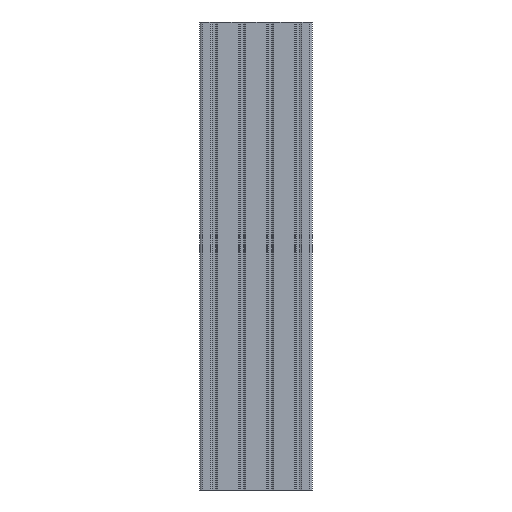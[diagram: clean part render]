
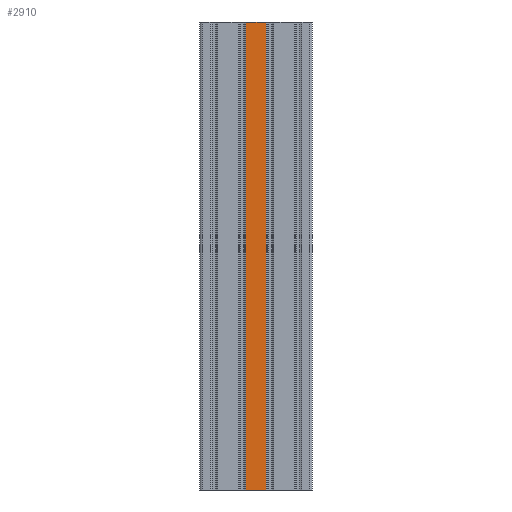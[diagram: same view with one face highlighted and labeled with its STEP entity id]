
A CAD part, front view. The second image highlights one B-rep face of the part: STEP entity #2910.
In plain terms, the highlighted planar face has unit normal (0, -1, 0).
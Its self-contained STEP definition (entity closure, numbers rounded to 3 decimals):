
#121 = CARTESIAN_POINT ( 'NONE',  ( -60., -30., 250. ) ) ;
#467 = VECTOR ( 'NONE', #9434, 1000. ) ;
#710 = EDGE_CURVE ( 'NONE', #2689, #10120, #6341, .T. ) ;
#1339 = DIRECTION ( 'NONE',  ( 0., -1., 0. ) ) ;
#1698 = LINE ( 'NONE', #9549, #467 ) ;
#1984 = FACE_OUTER_BOUND ( 'NONE', #7956, .T. ) ;
#2216 = ORIENTED_EDGE ( 'NONE', *, *, #3557, .F. ) ;
#2266 = VERTEX_POINT ( 'NONE', #9109 ) ;
#2605 = DIRECTION ( 'NONE',  ( 0., 0., 1. ) ) ;
#2609 = EDGE_CURVE ( 'NONE', #3277, #2266, #3489, .T. ) ;
#2684 = EDGE_CURVE ( 'NONE', #2266, #10120, #5310, .T. ) ;
#2689 = VERTEX_POINT ( 'NONE', #6249 ) ;
#2910 = ADVANCED_FACE ( 'NONE', ( #1984 ), #3172, .T. ) ;
#2938 = VECTOR ( 'NONE', #2605, 1000. ) ;
#3127 = ORIENTED_EDGE ( 'NONE', *, *, #2609, .F. ) ;
#3172 = PLANE ( 'NONE',  #5422 ) ;
#3277 = VERTEX_POINT ( 'NONE', #10840 ) ;
#3450 = CARTESIAN_POINT ( 'NONE',  ( -10.9, -30., -250. ) ) ;
#3489 = LINE ( 'NONE', #3450, #2938 ) ;
#3557 = EDGE_CURVE ( 'NONE', #2689, #3277, #1698, .T. ) ;
#4352 = ORIENTED_EDGE ( 'NONE', *, *, #710, .T. ) ;
#5310 = LINE ( 'NONE', #121, #7897 ) ;
#5422 = AXIS2_PLACEMENT_3D ( 'NONE', #10048, #1339, #9320 ) ;
#6249 = CARTESIAN_POINT ( 'NONE',  ( 10.9, -30., -250. ) ) ;
#6341 = LINE ( 'NONE', #6662, #8101 ) ;
#6620 = CARTESIAN_POINT ( 'NONE',  ( 10.9, -30., 250. ) ) ;
#6662 = CARTESIAN_POINT ( 'NONE',  ( 10.9, -30., -250. ) ) ;
#7483 = ORIENTED_EDGE ( 'NONE', *, *, #2684, .F. ) ;
#7897 = VECTOR ( 'NONE', #9712, 1000. ) ;
#7956 = EDGE_LOOP ( 'NONE', ( #2216, #4352, #7483, #3127 ) ) ;
#8101 = VECTOR ( 'NONE', #9255, 1000. ) ;
#9109 = CARTESIAN_POINT ( 'NONE',  ( -10.9, -30., 250. ) ) ;
#9255 = DIRECTION ( 'NONE',  ( 0., 0., 1. ) ) ;
#9320 = DIRECTION ( 'NONE',  ( 1., 0., 0. ) ) ;
#9434 = DIRECTION ( 'NONE',  ( -1., 0., 0. ) ) ;
#9549 = CARTESIAN_POINT ( 'NONE',  ( -60., -30., -250. ) ) ;
#9712 = DIRECTION ( 'NONE',  ( 1., 0., 0. ) ) ;
#10048 = CARTESIAN_POINT ( 'NONE',  ( -60., -30., -384.164 ) ) ;
#10120 = VERTEX_POINT ( 'NONE', #6620 ) ;
#10840 = CARTESIAN_POINT ( 'NONE',  ( -10.9, -30., -250. ) ) ;
